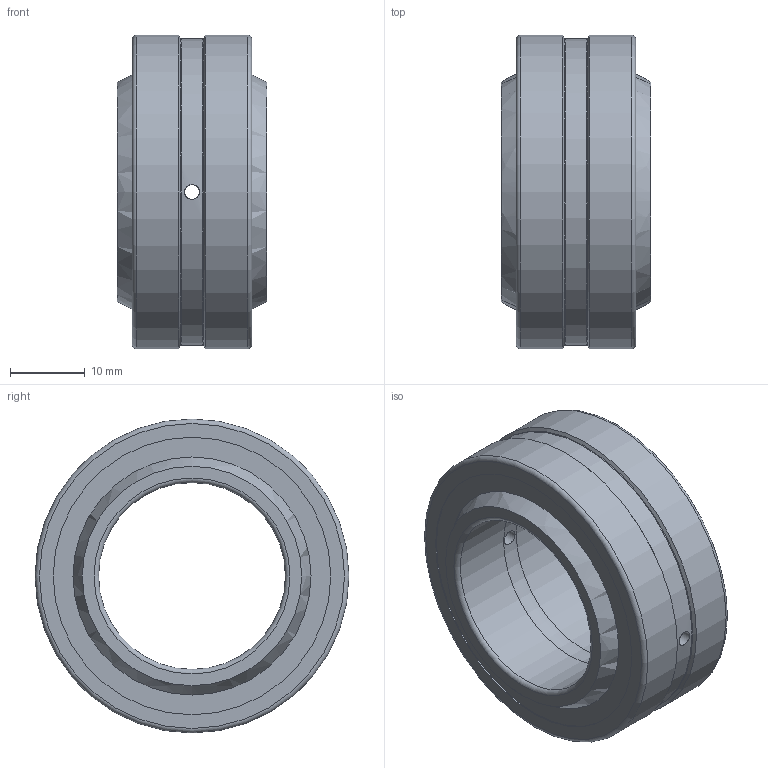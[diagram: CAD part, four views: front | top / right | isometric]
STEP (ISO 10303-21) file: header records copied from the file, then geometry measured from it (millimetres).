
FILE_DESCRIPTION(/* description */ (''),/* implementation_level */ '2;1');
FILE_NAME(/* name */ 'D:\moje\parametrické\GE--E-2RS\GE--E-2RS\GE25E-2RS.stp',/* time_stamp */ '2016-08-17T11:05:06+02:00',/* author */ ('OUBALASKO'),/* organization */ (''),/* preprocessor_version */ 'ST-DEVELOPER v15.6',/* originating_system */ 'Autodesk Inventor 2015',/* authorisation */ '');
FILE_SCHEMA (('AUTOMOTIVE_DESIGN { 1 0 10303 214 3 1 1 }'));
Length unit declared in the file: millimetre
Products named in the file (4): GE25E-2RS-02; GE25E-2RS-01; GE25E-2RS-RS; GE25E-2RS
Assembly tree (4 placements, depth 2):
  GE25E-2RS
    GE25E-2RS-02
    GE25E-2RS-01
    GE25E-2RS-RS  x2
Bounding box: 20 x 42 x 42 mm (x, y, z)
Volume: 14835.1 mm3; surface area: 10833.9 mm2
Topology: 4 solids, 4 shells, 38 faces, 78 edges, 51 vertices
Faces by surface type: cylinder 13, plane 10, torus 8, sphere 5, cone 2
Full cylindrical faces by diameter (mm): 2 x4, 25 x2, 37.112 x4, 41 x1, 42 x2
Entity records: 1034 total; most frequent: CARTESIAN_POINT 324, DIRECTION 148, EDGE_LOOP 76, ORIENTED_EDGE 76, AXIS2_PLACEMENT_3D 74, FACE_BOUND 43, VERTEX_POINT 38, EDGE_CURVE 38
